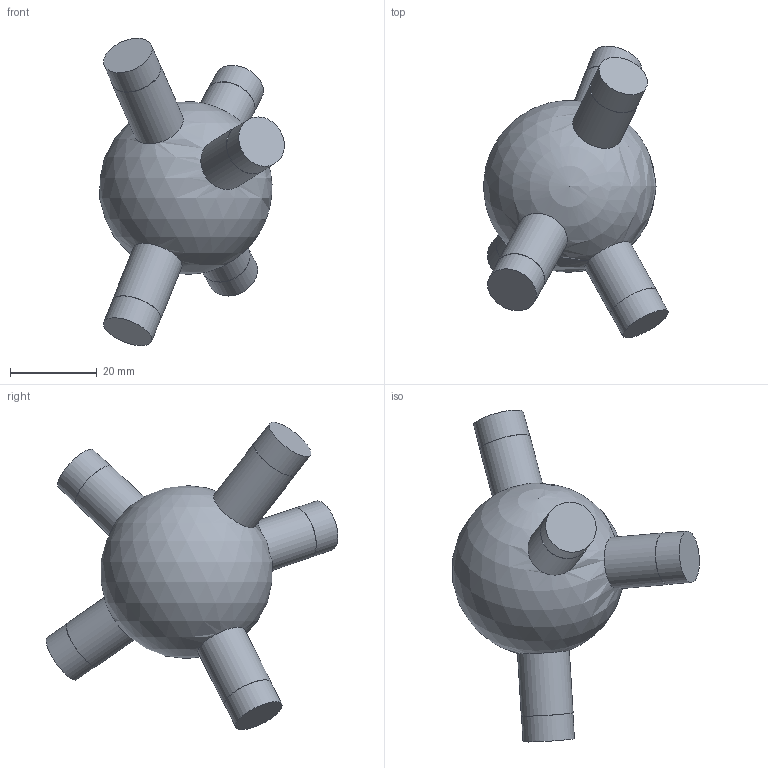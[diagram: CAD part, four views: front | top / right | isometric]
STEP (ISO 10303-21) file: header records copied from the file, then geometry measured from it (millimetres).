
FILE_DESCRIPTION(('Open CASCADE Model'),'2;1');
FILE_NAME('Open CASCADE Shape Model','2026-10-21T12:47:57',('Author'),( 'Open CASCADE'),'Open CASCADE STEP processor 7.9','Open CASCADE 7.9' ,'Unknown');
FILE_SCHEMA(('AUTOMOTIVE_DESIGN { 1 0 10303 214 1 1 1 1 }'));
Length unit declared in the file: millimetre
Products named in the file (1): Open CASCADE STEP translator 7.9 54
Bounding box: 42.69 x 67.46 x 71.02 mm (x, y, z)
Volume: 44140.1 mm3; surface area: 8653.3 mm2
Topology: 1 solids, 1 shells, 21 faces, 33 edges, 22 vertices
Faces by surface type: cylinder 10, plane 10, sphere 1
Full cylindrical faces by diameter (mm): 11.9 x5, 12 x5
Entity records: 1199 total; most frequent: CARTESIAN_POINT 474, DIRECTION 149, ORIENTED_EDGE 60, PCURVE 60, DEFINITIONAL_REPRESENTATION 60, LINE 50, VECTOR 50, AXIS2_PLACEMENT_3D 42
